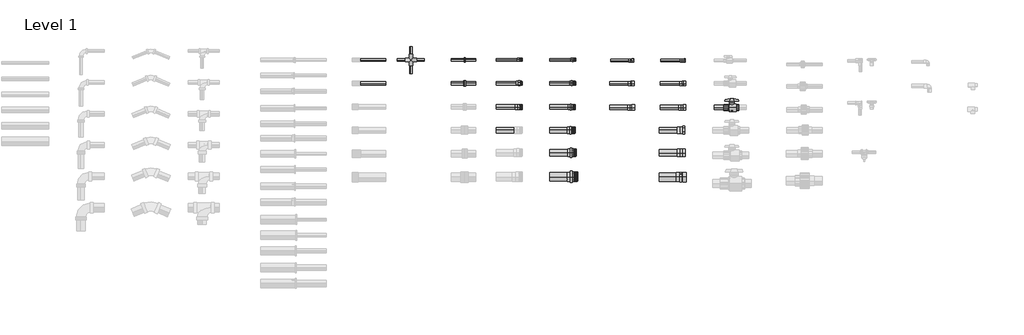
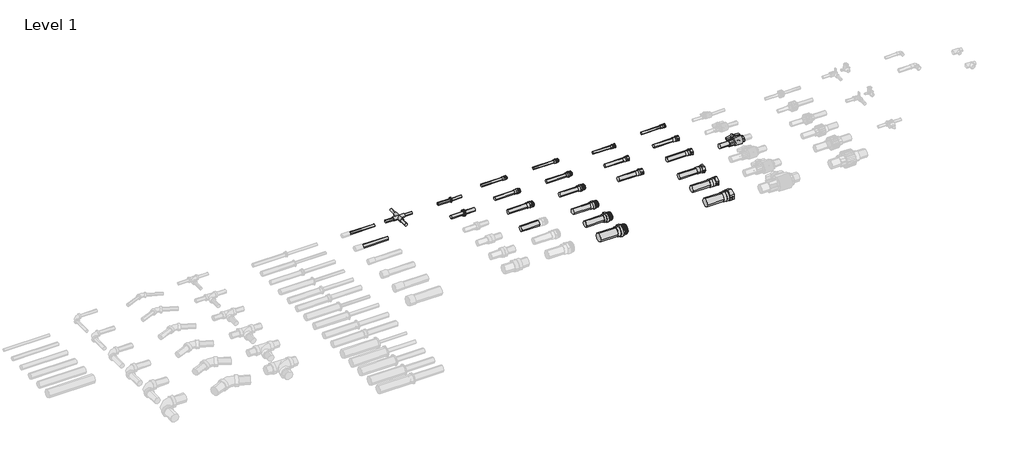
# One storey, part 4 of 5: 30 pipe segments, 19 valves, 3 pipe fittings.
"""IFC4 building model written with IfcOpenShell, lengths in millimetres."""

from ifc_helpers import new_model, si_unit, point, frame, frame_2d, origin, place, context, project, spatial, circle_curve, trimmed, segment, composite_curve, outline, extrude, transform, mapped, element, save
from components import standard_33ca7a89, standard_c6e6c247, standard_b45bd4e5, valve_ad1eddb8, valve_ba74af61, valve_d5ede667, valve_bd7e4427, valve_c4f6bb43, valve_c794fbe9, valve_c067d7a9, valve_b4eb689a, valve_5111bdb8, valve_420338b3, valve_9c0856a4, valve_839ebb6c, valve_88e978f3, valve_e3f3b538, valve_6d2ca414, valve_06e1a133, valve_689d34dc, valve_f961c14e, valve_15d234eb

model = new_model("IFC4")

# Units and contexts
model_context = context("Model", 3, world=origin())
ifc_project = project(units=[si_unit("LENGTHUNIT", "METRE", prefix="MILLI")], contexts=[model_context])

# Site, building, storey
site = spatial("IfcSite", under=ifc_project)
building = spatial("IfcBuilding", under=site)
storey = spatial("IfcBuildingStorey", under=building, Name="Level 1", Elevation=0.0)

# Pipe fittings
placement = place(None, origin())
standard_shape = standard_33ca7a89(model_context)
element("IfcPipeFitting", 1, ObjectType="Cross_Lubrizol_CPVC_FlowGuard_MX : Standard", at=placement, inside=storey, context=model_context, shape_type="MappedRepresentation", body=[
    mapped(standard_shape, transform((-11736.6977381, 7152.4110287, 0.0), x_axis=(0.0, -1.0, 0.0), y_axis=(-1.0, 0.0, 0.0), z_axis=(0.0, 0.0, -1.0))),
])
standard_2_shape = standard_c6e6c247(model_context)
element("IfcPipeFitting", 2, ObjectType="Cople_Lubrizol_CPVC_FlowGuard_MX : Standard", at=placement, inside=storey, context=model_context, shape_type="MappedRepresentation", body=[
    mapped(standard_2_shape, transform((-11393.7080901, 7153.8269662, 0.0), x_axis=(1.0, 0.0, 0.0), y_axis=(0.0, 1.0, 0.0), z_axis=(0.0, 0.0, 1.0))),
])
standard_3_shape = standard_b45bd4e5(model_context)
element("IfcPipeFitting", 3, ObjectType="Cople_Lubrizol_CPVC_FlowGuard_MX : Standard", at=placement, inside=storey, context=model_context, shape_type="MappedRepresentation", body=[
    mapped(standard_3_shape, transform((-11393.7080901, 7003.8269662, 0.0), x_axis=(1.0, 0.0, 0.0), y_axis=(0.0, 1.0, 0.0), z_axis=(0.0, 0.0, 1.0))),
])

# Pipe segments
element("IfcPipeSegment", 4, ObjectType="Lubrizol_Flow Guard SDR 13.5", at=placement, inside=storey, context=model_context, shape_type="SweptSolid", body=[
    extrude(outline(composite_curve([segment(trimmed(circle_curve(frame_2d((7152.702325, 0.0)), 7.95), [point((7144.752325, 0.0))], [point((7152.702325, 7.95))], False, "CARTESIAN"), True, "CONTINUOUS"), segment(trimmed(circle_curve(frame_2d((7152.702325, 0.0)), 7.95), [point((7152.702325, 7.95))], [point((7160.652325, 0.0))], False, "CARTESIAN"), True, "CONTINUOUS"), segment(trimmed(circle_curve(frame_2d((7152.702325, 0.0)), 7.95), [point((7160.652325, 0.0))], [point((7152.702325, -7.95))], False, "CARTESIAN"), True, "CONTINUOUS"), segment(trimmed(circle_curve(frame_2d((7152.702325, 0.0)), 7.95), [point((7152.702325, -7.95))], [point((7144.752325, 0.0))], False, "CARTESIAN"), True, "CONTINUOUS")], self_intersect=False)), frame((-12060.9977666, 0.0, 0.0), z_axis=(1.0, 0.0, 0.0), x_axis=(0.0, 1.0, 0.0)), (0.0, 0.0, 1.0), 165.0),
])
element("IfcPipeSegment", 5, ObjectType="Lubrizol_Flow Guard SDR 13.5", at=placement, inside=storey, context=model_context, shape_type="SweptSolid", body=[
    extrude(outline(composite_curve([segment(trimmed(circle_curve(frame_2d((7002.702325, 0.0)), 11.1), [point((6991.602325, 0.0))], [point((7002.702325, 11.1))], False, "CARTESIAN"), True, "CONTINUOUS"), segment(trimmed(circle_curve(frame_2d((7002.702325, 0.0)), 11.1), [point((7002.702325, 11.1))], [point((7013.802325, 0.0))], False, "CARTESIAN"), True, "CONTINUOUS"), segment(trimmed(circle_curve(frame_2d((7002.702325, 0.0)), 11.1), [point((7013.802325, 0.0))], [point((7002.702325, -11.1))], False, "CARTESIAN"), True, "CONTINUOUS"), segment(trimmed(circle_curve(frame_2d((7002.702325, 0.0)), 11.1), [point((7002.702325, -11.1))], [point((6991.602325, 0.0))], False, "CARTESIAN"), True, "CONTINUOUS")], self_intersect=False)), frame((-12060.9977666, 0.0, 0.0), z_axis=(1.0, 0.0, 0.0), x_axis=(0.0, 1.0, 0.0)), (0.0, 0.0, 1.0), 165.0),
])
element("IfcPipeSegment", 6, ObjectType="Lubrizol_Flow Guard SDR 13.5", at=placement, inside=storey, context=model_context, shape_type="SweptSolid", body=[
    extrude(outline(composite_curve([segment(trimmed(circle_curve(frame_2d((0.0, 7.95)), 7.95), [point((0.0, 15.9))], [point((7.95, 7.95))], False, "CARTESIAN"), True, "CONTINUOUS"), segment(trimmed(circle_curve(frame_2d((0.0, 7.95)), 7.95), [point((7.95, 7.95))], [point((0.0, 0.0))], False, "CARTESIAN"), True, "CONTINUOUS"), segment(trimmed(circle_curve(frame_2d((0.0, 7.95)), 7.95), [point((0.0, 0.0))], [point((-7.95, 7.95))], False, "CARTESIAN"), True, "CONTINUOUS"), segment(trimmed(circle_curve(frame_2d((0.0, 7.95)), 7.95), [point((-7.95, 7.95))], [point((0.0, 15.9))], False, "CARTESIAN"), True, "CONTINUOUS")], self_intersect=False)), frame((-11744.6477381, 7188.8269662, 0.0), z_axis=(-2.0431455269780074e-12, 1.0, 0.0), x_axis=(0.0, 0.0, 1.0)), (0.0, 0.0, 1.0), 50.0),
])
element("IfcPipeSegment", 7, ObjectType="Lubrizol_Flow Guard SDR 13.5", at=placement, inside=storey, context=model_context, shape_type="SweptSolid", body=[
    extrude(outline(composite_curve([segment(trimmed(circle_curve(frame_2d((7152.4110287, 0.0)), 7.95), [point((7144.4610287, 0.0))], [point((7152.4110287, 7.95))], False, "CARTESIAN"), True, "CONTINUOUS"), segment(trimmed(circle_curve(frame_2d((7152.4110287, 0.0)), 7.95), [point((7152.4110287, 7.95))], [point((7160.3610287, 0.0))], False, "CARTESIAN"), True, "CONTINUOUS"), segment(trimmed(circle_curve(frame_2d((7152.4110287, 0.0)), 7.95), [point((7160.3610287, 0.0))], [point((7152.4110287, -7.95))], False, "CARTESIAN"), True, "CONTINUOUS"), segment(trimmed(circle_curve(frame_2d((7152.4110287, 0.0)), 7.95), [point((7152.4110287, -7.95))], [point((7144.4610287, 0.0))], False, "CARTESIAN"), True, "CONTINUOUS")], self_intersect=False)), frame((-11700.2818006, 0.0, 0.0), z_axis=(1.0, 0.0, 0.0), x_axis=(0.0, 1.0, 0.0)), (0.0, 0.0, 1.0), 50.0),
])
element("IfcPipeSegment", 8, ObjectType="Lubrizol_Flow Guard SDR 13.5", at=placement, inside=storey, context=model_context, shape_type="SweptSolid", body=[
    extrude(outline(composite_curve([segment(trimmed(circle_curve(frame_2d((0.0, 7.95)), 7.95), [point((0.0, 15.9))], [point((7.95, 7.95))], False, "CARTESIAN"), True, "CONTINUOUS"), segment(trimmed(circle_curve(frame_2d((0.0, 7.95)), 7.95), [point((7.95, 7.95))], [point((0.0, 0.0))], False, "CARTESIAN"), True, "CONTINUOUS"), segment(trimmed(circle_curve(frame_2d((0.0, 7.95)), 7.95), [point((0.0, 0.0))], [point((-7.95, 7.95))], False, "CARTESIAN"), True, "CONTINUOUS"), segment(trimmed(circle_curve(frame_2d((0.0, 7.95)), 7.95), [point((-7.95, 7.95))], [point((0.0, 15.9))], False, "CARTESIAN"), True, "CONTINUOUS")], self_intersect=False)), frame((-11744.6477381, 7065.9950912, 0.0), z_axis=(-1.0215727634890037e-12, 1.0, 0.0), x_axis=(0.0, 0.0, 1.0)), (0.0, 0.0, 1.0), 50.0),
])
element("IfcPipeSegment", 9, ObjectType="Lubrizol_Flow Guard SDR 13.5", at=placement, inside=storey, context=model_context, shape_type="SweptSolid", body=[
    extrude(outline(composite_curve([segment(trimmed(circle_curve(frame_2d((7152.4110287, 0.0)), 7.95), [point((7144.4610287, 0.0))], [point((7152.4110287, 7.95))], False, "CARTESIAN"), True, "CONTINUOUS"), segment(trimmed(circle_curve(frame_2d((7152.4110287, 0.0)), 7.95), [point((7152.4110287, 7.95))], [point((7160.3610287, 0.0))], False, "CARTESIAN"), True, "CONTINUOUS"), segment(trimmed(circle_curve(frame_2d((7152.4110287, 0.0)), 7.95), [point((7160.3610287, 0.0))], [point((7152.4110287, -7.95))], False, "CARTESIAN"), True, "CONTINUOUS"), segment(trimmed(circle_curve(frame_2d((7152.4110287, 0.0)), 7.95), [point((7152.4110287, -7.95))], [point((7144.4610287, 0.0))], False, "CARTESIAN"), True, "CONTINUOUS")], self_intersect=False)), frame((-11823.1136756, 0.0, 0.0), z_axis=(1.0, 0.0, 0.0), x_axis=(0.0, 1.0, 0.0)), (0.0, 0.0, 1.0), 50.0),
])
element("IfcPipeSegment", 10, ObjectType="Lubrizol_Flow Guard SDR 13.5", at=placement, inside=storey, context=model_context, shape_type="SweptSolid", body=[
    extrude(outline(composite_curve([segment(trimmed(circle_curve(frame_2d((7153.8269662, 0.0)), 7.95), [point((7145.8769662, 0.0))], [point((7153.8269662, 7.95))], False, "CARTESIAN"), True, "CONTINUOUS"), segment(trimmed(circle_curve(frame_2d((7153.8269662, 0.0)), 7.95), [point((7153.8269662, 7.95))], [point((7161.7769662, 0.0))], False, "CARTESIAN"), True, "CONTINUOUS"), segment(trimmed(circle_curve(frame_2d((7153.8269662, 0.0)), 7.95), [point((7161.7769662, 0.0))], [point((7153.8269662, -7.95))], False, "CARTESIAN"), True, "CONTINUOUS"), segment(trimmed(circle_curve(frame_2d((7153.8269662, 0.0)), 7.95), [point((7153.8269662, -7.95))], [point((7145.8769662, 0.0))], False, "CARTESIAN"), True, "CONTINUOUS")], self_intersect=False)), frame((-11390.6722307, 0.0, 0.0), z_axis=(1.0, 0.0, 0.0), x_axis=(0.0, 1.0, 0.0)), (0.0, 0.0, 1.0), 67.6016406),
])
element("IfcPipeSegment", 11, ObjectType="Lubrizol_Flow Guard SDR 13.5", at=placement, inside=storey, context=model_context, shape_type="SweptSolid", body=[
    extrude(outline(composite_curve([segment(trimmed(circle_curve(frame_2d((7153.8269662, 0.0)), 7.95), [point((7161.7769662, 0.0))], [point((7153.8269662, -7.95))], False, "CARTESIAN"), True, "CONTINUOUS"), segment(trimmed(circle_curve(frame_2d((7153.8269662, 0.0)), 7.95), [point((7153.8269662, -7.95))], [point((7145.8769662, 0.0))], False, "CARTESIAN"), True, "CONTINUOUS"), segment(trimmed(circle_curve(frame_2d((7153.8269662, 0.0)), 7.95), [point((7145.8769662, 0.0))], [point((7153.8269662, 7.95))], False, "CARTESIAN"), True, "CONTINUOUS"), segment(trimmed(circle_curve(frame_2d((7153.8269662, 0.0)), 7.95), [point((7153.8269662, 7.95))], [point((7161.7769662, 0.0))], False, "CARTESIAN"), True, "CONTINUOUS")], self_intersect=False)), frame((-11478.0705901, 0.0, 0.0), z_axis=(1.0, 0.0, 0.0), x_axis=(0.0, 1.0, 0.0)), (0.0, 0.0, 1.0), 81.3266406),
])
element("IfcPipeSegment", 12, ObjectType="Lubrizol_Flow Guard SDR 13.5", at=placement, inside=storey, context=model_context, shape_type="SweptSolid", body=[
    extrude(outline(composite_curve([segment(trimmed(circle_curve(frame_2d((7003.8269662, 0.0)), 11.1), [point((6992.7269662, 0.0))], [point((7003.8269662, 11.1))], False, "CARTESIAN"), True, "CONTINUOUS"), segment(trimmed(circle_curve(frame_2d((7003.8269662, 0.0)), 11.1), [point((7003.8269662, 11.1))], [point((7014.9269662, 0.0))], False, "CARTESIAN"), True, "CONTINUOUS"), segment(trimmed(circle_curve(frame_2d((7003.8269662, 0.0)), 11.1), [point((7014.9269662, 0.0))], [point((7003.8269662, -11.1))], False, "CARTESIAN"), True, "CONTINUOUS"), segment(trimmed(circle_curve(frame_2d((7003.8269662, 0.0)), 11.1), [point((7003.8269662, -11.1))], [point((6992.7269662, 0.0))], False, "CARTESIAN"), True, "CONTINUOUS")], self_intersect=False)), frame((-11387.4622307, 0.0, 0.0), z_axis=(1.0, 0.0, 0.0), x_axis=(0.0, 1.0, 0.0)), (0.0, 0.0, 1.0), 64.3916406),
])
element("IfcPipeSegment", 13, ObjectType="Lubrizol_Flow Guard SDR 13.5", at=placement, inside=storey, context=model_context, shape_type="SweptSolid", body=[
    extrude(outline(composite_curve([segment(trimmed(circle_curve(frame_2d((7003.8269662, 0.0)), 11.1), [point((7014.9269662, 0.0))], [point((7003.8269662, -11.1))], False, "CARTESIAN"), True, "CONTINUOUS"), segment(trimmed(circle_curve(frame_2d((7003.8269662, 0.0)), 11.1), [point((7003.8269662, -11.1))], [point((6992.7269662, 0.0))], False, "CARTESIAN"), True, "CONTINUOUS"), segment(trimmed(circle_curve(frame_2d((7003.8269662, 0.0)), 11.1), [point((6992.7269662, 0.0))], [point((7003.8269662, 11.1))], False, "CARTESIAN"), True, "CONTINUOUS"), segment(trimmed(circle_curve(frame_2d((7003.8269662, 0.0)), 11.1), [point((7003.8269662, 11.1))], [point((7014.9269662, 0.0))], False, "CARTESIAN"), True, "CONTINUOUS")], self_intersect=False)), frame((-11478.0705901, 0.0, 0.0), z_axis=(1.0, 0.0, 0.0), x_axis=(0.0, 1.0, 0.0)), (0.0, 0.0, 1.0), 78.1166406),
])
element("IfcPipeSegment", 14, ObjectType="Lubrizol_Flow Guard SDR 13.5", at=placement, inside=storey, context=model_context, shape_type="SweptSolid", body=[
    extrude(outline(composite_curve([segment(trimmed(circle_curve(frame_2d((6703.8894662, 0.0)), 17.45), [point((6721.3394662, 0.0))], [point((6703.8894662, -17.45))], False, "CARTESIAN"), True, "CONTINUOUS"), segment(trimmed(circle_curve(frame_2d((6703.8894662, 0.0)), 17.45), [point((6703.8894662, -17.45))], [point((6686.4394662, 0.0))], False, "CARTESIAN"), True, "CONTINUOUS"), segment(trimmed(circle_curve(frame_2d((6703.8894662, 0.0)), 17.45), [point((6686.4394662, 0.0))], [point((6703.8894662, 17.45))], False, "CARTESIAN"), True, "CONTINUOUS"), segment(trimmed(circle_curve(frame_2d((6703.8894662, 0.0)), 17.45), [point((6703.8894662, 17.45))], [point((6721.3394662, 0.0))], False, "CARTESIAN"), True, "CONTINUOUS")], self_intersect=False)), frame((-11190.4354895, 0.0, 0.0), z_axis=(1.0, 0.0, 0.0), x_axis=(0.0, 1.0, 0.0)), (0.0, 0.0, 1.0), 114.8547988),
])
element("IfcPipeSegment", 15, ObjectType="Lubrizol_Flow Guard SDR 13.5", at=placement, inside=storey, context=model_context, shape_type="SweptSolid", body=[
    extrude(outline(composite_curve([segment(trimmed(circle_curve(frame_2d((6851.9141957, 28.2)), 14.3), [point((6866.2141957, 28.2))], [point((6851.9141957, 13.9))], False, "CARTESIAN"), True, "CONTINUOUS"), segment(trimmed(circle_curve(frame_2d((6851.9141957, 28.2)), 14.3), [point((6851.9141957, 13.9))], [point((6837.6141957, 28.2))], False, "CARTESIAN"), True, "CONTINUOUS"), segment(trimmed(circle_curve(frame_2d((6851.9141957, 28.2)), 14.3), [point((6837.6141957, 28.2))], [point((6851.9141957, 42.5))], False, "CARTESIAN"), True, "CONTINUOUS"), segment(trimmed(circle_curve(frame_2d((6851.9141957, 28.2)), 14.3), [point((6851.9141957, 42.5))], [point((6866.2141957, 28.2))], False, "CARTESIAN"), True, "CONTINUOUS")], self_intersect=False)), frame((-11190.4354895, 0.0, 0.0), z_axis=(1.0, 0.0, 0.0), x_axis=(0.0, 1.0, 0.0)), (0.0, 0.0, 1.0), 119.8547988),
])
element("IfcPipeSegment", 16, ObjectType="Lubrizol_Flow Guard SDR 13.5", at=placement, inside=storey, context=model_context, shape_type="SweptSolid", body=[
    extrude(outline(composite_curve([segment(trimmed(circle_curve(frame_2d((7003.8269662, 28.2)), 11.1), [point((7014.9269662, 28.2))], [point((7003.8269662, 17.1))], False, "CARTESIAN"), True, "CONTINUOUS"), segment(trimmed(circle_curve(frame_2d((7003.8269662, 28.2)), 11.1), [point((7003.8269662, 17.1))], [point((6992.7269662, 28.2))], False, "CARTESIAN"), True, "CONTINUOUS"), segment(trimmed(circle_curve(frame_2d((7003.8269662, 28.2)), 11.1), [point((6992.7269662, 28.2))], [point((7003.8269662, 39.3))], False, "CARTESIAN"), True, "CONTINUOUS"), segment(trimmed(circle_curve(frame_2d((7003.8269662, 28.2)), 11.1), [point((7003.8269662, 39.3))], [point((7014.9269662, 28.2))], False, "CARTESIAN"), True, "CONTINUOUS")], self_intersect=False)), frame((-11190.4354895, 0.0, 0.0), z_axis=(1.0, 0.0, 0.0), x_axis=(0.0, 1.0, 0.0)), (0.0, 0.0, 1.0), 126.7297988),
])
element("IfcPipeSegment", 17, ObjectType="Lubrizol_Flow Guard SDR 13.5", at=placement, inside=storey, context=model_context, shape_type="SweptSolid", body=[
    extrude(outline(composite_curve([segment(trimmed(circle_curve(frame_2d((7154.0267078, 28.2239162)), 7.95), [point((7161.9767078, 28.2239162))], [point((7154.0267078, 20.2739162))], False, "CARTESIAN"), True, "CONTINUOUS"), segment(trimmed(circle_curve(frame_2d((7154.0267078, 28.2239162)), 7.95), [point((7154.0267078, 20.2739162))], [point((7146.0767078, 28.2239162))], False, "CARTESIAN"), True, "CONTINUOUS"), segment(trimmed(circle_curve(frame_2d((7154.0267078, 28.2239162)), 7.95), [point((7146.0767078, 28.2239162))], [point((7154.0267078, 36.1739162))], False, "CARTESIAN"), True, "CONTINUOUS"), segment(trimmed(circle_curve(frame_2d((7154.0267078, 28.2239162)), 7.95), [point((7154.0267078, 36.1739162))], [point((7161.9767078, 28.2239162))], False, "CARTESIAN"), True, "CONTINUOUS")], self_intersect=False)), frame((-11190.4354895, 0.0, 0.0), z_axis=(1.0, 0.0, 0.0), x_axis=(0.0, 1.0, 0.0)), (0.0, 0.0, 1.0), 133.9297988),
])
element("IfcPipeSegment", 18, ObjectType="Lubrizol_Flow Guard SDR 13.5", at=placement, inside=storey, context=model_context, shape_type="SweptSolid", body=[
    extrude(outline(composite_curve([segment(trimmed(circle_curve(frame_2d((6849.3516957, 3.2)), 14.3), [point((6863.6516957, 3.2))], [point((6849.3516957, -11.1))], False, "CARTESIAN"), True, "CONTINUOUS"), segment(trimmed(circle_curve(frame_2d((6849.3516957, 3.2)), 14.3), [point((6849.3516957, -11.1))], [point((6835.0516957, 3.2))], False, "CARTESIAN"), True, "CONTINUOUS"), segment(trimmed(circle_curve(frame_2d((6849.3516957, 3.2)), 14.3), [point((6835.0516957, 3.2))], [point((6849.3516957, 17.5))], False, "CARTESIAN"), True, "CONTINUOUS"), segment(trimmed(circle_curve(frame_2d((6849.3516957, 3.2)), 14.3), [point((6849.3516957, 17.5))], [point((6863.6516957, 3.2))], False, "CARTESIAN"), True, "CONTINUOUS")], self_intersect=False)), frame((-10465.9989597, 0.0, 0.0), z_axis=(1.0, 0.0, 0.0), x_axis=(0.0, 1.0, 0.0)), (0.0, 0.0, 1.0), 113.1259702),
])
element("IfcPipeSegment", 19, ObjectType="Lubrizol_Flow Guard SDR 13.5", at=placement, inside=storey, context=model_context, shape_type="SweptSolid", body=[
    extrude(outline(composite_curve([segment(trimmed(circle_curve(frame_2d((7002.8269662, 3.2)), 11.1), [point((7013.9269662, 3.2))], [point((7002.8269662, -7.9))], False, "CARTESIAN"), True, "CONTINUOUS"), segment(trimmed(circle_curve(frame_2d((7002.8269662, 3.2)), 11.1), [point((7002.8269662, -7.9))], [point((6991.7269662, 3.2))], False, "CARTESIAN"), True, "CONTINUOUS"), segment(trimmed(circle_curve(frame_2d((7002.8269662, 3.2)), 11.1), [point((6991.7269662, 3.2))], [point((7002.8269662, 14.3))], False, "CARTESIAN"), True, "CONTINUOUS"), segment(trimmed(circle_curve(frame_2d((7002.8269662, 3.2)), 11.1), [point((7002.8269662, 14.3))], [point((7013.9269662, 3.2))], False, "CARTESIAN"), True, "CONTINUOUS")], self_intersect=False)), frame((-10465.9989597, 0.0, 0.0), z_axis=(1.0, 0.0, 0.0), x_axis=(0.0, 1.0, 0.0)), (0.0, 0.0, 1.0), 116.5634702),
])
element("IfcPipeSegment", 20, ObjectType="Lubrizol_Flow Guard SDR 13.5", at=placement, inside=storey, context=model_context, shape_type="SweptSolid", body=[
    extrude(outline(composite_curve([segment(trimmed(circle_curve(frame_2d((0.0, -7.95)), 7.95), [point((-7.95, -7.95))], [point((0.0, 0.0))], False, "CARTESIAN"), True, "CONTINUOUS"), segment(trimmed(circle_curve(frame_2d((0.0, -7.95)), 7.95), [point((0.0, 0.0))], [point((7.95, -7.95))], False, "CARTESIAN"), True, "CONTINUOUS"), segment(trimmed(circle_curve(frame_2d((0.0, -7.95)), 7.95), [point((7.95, -7.95))], [point((0.0, -15.8999999))], False, "CARTESIAN"), True, "CONTINUOUS"), segment(trimmed(circle_curve(frame_2d((0.0, -7.95)), 7.95), [point((0.0, -15.8999999))], [point((-7.95, -7.95))], False, "CARTESIAN"), True, "CONTINUOUS")], self_intersect=False)), frame((-10460.8338338, 7148.6267078, -4.7499998), z_axis=(0.9999999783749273, 0.0, 0.00020796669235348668), x_axis=(0.0, -1.0, 0.0)), (0.0, 0.0, 1.0), 115.0000001),
])
element("IfcPipeSegment", 21, ObjectType="Lubrizol_Flow Guard SDR 13.5", at=placement, inside=storey, context=model_context, shape_type="SweptSolid", body=[
    extrude(outline(composite_curve([segment(trimmed(circle_curve(frame_2d((6848.4516957, 0.0)), 14.3), [point((6862.7516957, 0.0))], [point((6848.4516957, -14.3))], False, "CARTESIAN"), True, "CONTINUOUS"), segment(trimmed(circle_curve(frame_2d((6848.4516957, 0.0)), 14.3), [point((6848.4516957, -14.3))], [point((6834.1516957, 0.0))], False, "CARTESIAN"), True, "CONTINUOUS"), segment(trimmed(circle_curve(frame_2d((6848.4516957, 0.0)), 14.3), [point((6834.1516957, 0.0))], [point((6848.4516957, 14.3))], False, "CARTESIAN"), True, "CONTINUOUS"), segment(trimmed(circle_curve(frame_2d((6848.4516957, 0.0)), 14.3), [point((6848.4516957, 14.3))], [point((6862.7516957, 0.0))], False, "CARTESIAN"), True, "CONTINUOUS")], self_intersect=False)), frame((-9801.0225291, 0.0, 0.0), z_axis=(1.0, 0.0, 0.0), x_axis=(0.0, 1.0, 0.0)), (0.0, 0.0, 1.0), 60.0),
])
element("IfcPipeSegment", 22, ObjectType="Lubrizol_Flow Guard SDR 13.5", at=placement, inside=storey, context=model_context, shape_type="SweptSolid", body=[
    extrude(outline(composite_curve([segment(trimmed(circle_curve(frame_2d((6406.4620668, 0.0)), 27.0), [point((6433.4620668, 0.0))], [point((6406.4620668, -27.0))], False, "CARTESIAN"), True, "CONTINUOUS"), segment(trimmed(circle_curve(frame_2d((6406.4620668, 0.0)), 27.0), [point((6406.4620668, -27.0))], [point((6379.4620668, 0.0))], False, "CARTESIAN"), True, "CONTINUOUS"), segment(trimmed(circle_curve(frame_2d((6406.4620668, 0.0)), 27.0), [point((6379.4620668, 0.0))], [point((6406.4620668, 27.0))], False, "CARTESIAN"), True, "CONTINUOUS"), segment(trimmed(circle_curve(frame_2d((6406.4620668, 0.0)), 27.0), [point((6406.4620668, 27.0))], [point((6433.4620668, 0.0))], False, "CARTESIAN"), True, "CONTINUOUS")], self_intersect=False)), frame((-10850.4354895, 0.0, 0.0), z_axis=(1.0, 0.0, 0.0), x_axis=(0.0, 1.0, 0.0)), (0.0, 0.0, 1.0), 112.6351006),
])
element("IfcPipeSegment", 23, ObjectType="Lubrizol_Flow Guard SDR 13.5", at=placement, inside=storey, context=model_context, shape_type="SweptSolid", body=[
    extrude(outline(composite_curve([segment(trimmed(circle_curve(frame_2d((6560.801111, 0.0)), 20.65), [point((6581.451111, 0.0))], [point((6560.801111, -20.65))], False, "CARTESIAN"), True, "CONTINUOUS"), segment(trimmed(circle_curve(frame_2d((6560.801111, 0.0)), 20.65), [point((6560.801111, -20.65))], [point((6540.151111, 0.0))], False, "CARTESIAN"), True, "CONTINUOUS"), segment(trimmed(circle_curve(frame_2d((6560.801111, 0.0)), 20.65), [point((6540.151111, 0.0))], [point((6560.801111, 20.65))], False, "CARTESIAN"), True, "CONTINUOUS"), segment(trimmed(circle_curve(frame_2d((6560.801111, 0.0)), 20.65), [point((6560.801111, 20.65))], [point((6581.451111, 0.0))], False, "CARTESIAN"), True, "CONTINUOUS")], self_intersect=False)), frame((-10850.4354895, 0.0, 0.0), z_axis=(1.0, 0.0, 0.0), x_axis=(0.0, 1.0, 0.0)), (0.0, 0.0, 1.0), 115.4476006),
])
element("IfcPipeSegment", 24, ObjectType="Lubrizol_Flow Guard SDR 13.5", at=placement, inside=storey, context=model_context, shape_type="SweptSolid", body=[
    extrude(outline(composite_curve([segment(trimmed(circle_curve(frame_2d((6703.9519662, 0.0)), 17.45), [point((6721.4019662, 0.0))], [point((6703.9519662, -17.45))], False, "CARTESIAN"), True, "CONTINUOUS"), segment(trimmed(circle_curve(frame_2d((6703.9519662, 0.0)), 17.45), [point((6703.9519662, -17.45))], [point((6686.5019662, 0.0))], False, "CARTESIAN"), True, "CONTINUOUS"), segment(trimmed(circle_curve(frame_2d((6703.9519662, 0.0)), 17.45), [point((6686.5019662, 0.0))], [point((6703.9519662, 17.45))], False, "CARTESIAN"), True, "CONTINUOUS"), segment(trimmed(circle_curve(frame_2d((6703.9519662, 0.0)), 17.45), [point((6703.9519662, 17.45))], [point((6721.4019662, 0.0))], False, "CARTESIAN"), True, "CONTINUOUS")], self_intersect=False)), frame((-10850.4354895, 0.0, 0.0), z_axis=(1.0, 0.0, 0.0), x_axis=(0.0, 1.0, 0.0)), (0.0, 0.0, 1.0), 112.4172988),
])
element("IfcPipeSegment", 25, ObjectType="Lubrizol_Flow Guard SDR 13.5", at=placement, inside=storey, context=model_context, shape_type="SweptSolid", body=[
    extrude(outline(composite_curve([segment(trimmed(circle_curve(frame_2d((6851.9141957, 28.2)), 14.3), [point((6866.2141957, 28.2))], [point((6851.9141957, 13.9))], False, "CARTESIAN"), True, "CONTINUOUS"), segment(trimmed(circle_curve(frame_2d((6851.9141957, 28.2)), 14.3), [point((6851.9141957, 13.9))], [point((6837.6141957, 28.2))], False, "CARTESIAN"), True, "CONTINUOUS"), segment(trimmed(circle_curve(frame_2d((6851.9141957, 28.2)), 14.3), [point((6837.6141957, 28.2))], [point((6851.9141957, 42.5))], False, "CARTESIAN"), True, "CONTINUOUS"), segment(trimmed(circle_curve(frame_2d((6851.9141957, 28.2)), 14.3), [point((6851.9141957, 42.5))], [point((6866.2141957, 28.2))], False, "CARTESIAN"), True, "CONTINUOUS")], self_intersect=False)), frame((-10850.4354895, 0.0, 0.0), z_axis=(1.0, 0.0, 0.0), x_axis=(0.0, 1.0, 0.0)), (0.0, 0.0, 1.0), 117.4172988),
])
element("IfcPipeSegment", 26, ObjectType="Lubrizol_Flow Guard SDR 13.5", at=placement, inside=storey, context=model_context, shape_type="SweptSolid", body=[
    extrude(outline(composite_curve([segment(trimmed(circle_curve(frame_2d((7003.8269662, 28.2)), 11.1), [point((7014.9269662, 28.2))], [point((7003.8269662, 17.1))], False, "CARTESIAN"), True, "CONTINUOUS"), segment(trimmed(circle_curve(frame_2d((7003.8269662, 28.2)), 11.1), [point((7003.8269662, 17.1))], [point((6992.7269662, 28.2))], False, "CARTESIAN"), True, "CONTINUOUS"), segment(trimmed(circle_curve(frame_2d((7003.8269662, 28.2)), 11.1), [point((6992.7269662, 28.2))], [point((7003.8269662, 39.3))], False, "CARTESIAN"), True, "CONTINUOUS"), segment(trimmed(circle_curve(frame_2d((7003.8269662, 28.2)), 11.1), [point((7003.8269662, 39.3))], [point((7014.9269662, 28.2))], False, "CARTESIAN"), True, "CONTINUOUS")], self_intersect=False)), frame((-10850.4354895, 0.0, 0.0), z_axis=(1.0, 0.0, 0.0), x_axis=(0.0, 1.0, 0.0)), (0.0, 0.0, 1.0), 126.7297988),
])
element("IfcPipeSegment", 27, ObjectType="Lubrizol_Flow Guard SDR 13.5", at=placement, inside=storey, context=model_context, shape_type="SweptSolid", body=[
    extrude(outline(composite_curve([segment(trimmed(circle_curve(frame_2d((7154.0267078, 28.2239162)), 7.95), [point((7161.9767078, 28.2239162))], [point((7154.0267078, 20.2739162))], False, "CARTESIAN"), True, "CONTINUOUS"), segment(trimmed(circle_curve(frame_2d((7154.0267078, 28.2239162)), 7.95), [point((7154.0267078, 20.2739162))], [point((7146.0767078, 28.2239162))], False, "CARTESIAN"), True, "CONTINUOUS"), segment(trimmed(circle_curve(frame_2d((7154.0267078, 28.2239162)), 7.95), [point((7146.0767078, 28.2239162))], [point((7154.0267078, 36.1739162))], False, "CARTESIAN"), True, "CONTINUOUS"), segment(trimmed(circle_curve(frame_2d((7154.0267078, 28.2239162)), 7.95), [point((7154.0267078, 36.1739162))], [point((7161.9767078, 28.2239162))], False, "CARTESIAN"), True, "CONTINUOUS")], self_intersect=False)), frame((-10850.4354895, 0.0, 0.0), z_axis=(1.0, 0.0, 0.0), x_axis=(0.0, 1.0, 0.0)), (0.0, 0.0, 1.0), 133.9297988),
])
element("IfcPipeSegment", 28, ObjectType="Lubrizol_Flow Guard SDR 13.5", at=placement, inside=storey, context=model_context, shape_type="SweptSolid", body=[
    extrude(outline(composite_curve([segment(trimmed(circle_curve(frame_2d((6849.3516957, 28.2)), 14.3), [point((6863.6516957, 28.2))], [point((6849.3516957, 13.9))], False, "CARTESIAN"), True, "CONTINUOUS"), segment(trimmed(circle_curve(frame_2d((6849.3516957, 28.2)), 14.3), [point((6849.3516957, 13.9))], [point((6835.0516957, 28.2))], False, "CARTESIAN"), True, "CONTINUOUS"), segment(trimmed(circle_curve(frame_2d((6849.3516957, 28.2)), 14.3), [point((6835.0516957, 28.2))], [point((6849.3516957, 42.5))], False, "CARTESIAN"), True, "CONTINUOUS"), segment(trimmed(circle_curve(frame_2d((6849.3516957, 28.2)), 14.3), [point((6849.3516957, 42.5))], [point((6863.6516957, 28.2))], False, "CARTESIAN"), True, "CONTINUOUS")], self_intersect=False)), frame((-10145.9989597, 0.0, 0.0), z_axis=(1.0, 0.0, 0.0), x_axis=(0.0, 1.0, 0.0)), (0.0, 0.0, 1.0), 118.1884702),
])
element("IfcPipeSegment", 29, ObjectType="Lubrizol_Flow Guard SDR 13.5", at=placement, inside=storey, context=model_context, shape_type="SweptSolid", body=[
    extrude(outline(composite_curve([segment(trimmed(circle_curve(frame_2d((7002.8269662, 28.2)), 11.1), [point((7013.9269662, 28.2))], [point((7002.8269662, 17.1))], False, "CARTESIAN"), True, "CONTINUOUS"), segment(trimmed(circle_curve(frame_2d((7002.8269662, 28.2)), 11.1), [point((7002.8269662, 17.1))], [point((6991.7269662, 28.2))], False, "CARTESIAN"), True, "CONTINUOUS"), segment(trimmed(circle_curve(frame_2d((7002.8269662, 28.2)), 11.1), [point((6991.7269662, 28.2))], [point((7002.8269662, 39.3))], False, "CARTESIAN"), True, "CONTINUOUS"), segment(trimmed(circle_curve(frame_2d((7002.8269662, 28.2)), 11.1), [point((7002.8269662, 39.3))], [point((7013.9269662, 28.2))], False, "CARTESIAN"), True, "CONTINUOUS")], self_intersect=False)), frame((-10145.9989597, 0.0, 0.0), z_axis=(1.0, 0.0, 0.0), x_axis=(0.0, 1.0, 0.0)), (0.0, 0.0, 1.0), 125.0634702),
])
element("IfcPipeSegment", 30, ObjectType="Lubrizol_Flow Guard SDR 13.5", at=placement, inside=storey, context=model_context, shape_type="SweptSolid", body=[
    extrude(outline(composite_curve([segment(trimmed(circle_curve(frame_2d((0.0, -7.9499999)), 7.95), [point((-7.95, -7.9499999))], [point((0.0, 0.0))], False, "CARTESIAN"), True, "CONTINUOUS"), segment(trimmed(circle_curve(frame_2d((0.0, -7.9499999)), 7.95), [point((0.0, 0.0))], [point((7.95, -7.9499999))], False, "CARTESIAN"), True, "CONTINUOUS"), segment(trimmed(circle_curve(frame_2d((0.0, -7.9499999)), 7.95), [point((7.95, -7.9499999))], [point((0.0, -15.8999999))], False, "CARTESIAN"), True, "CONTINUOUS"), segment(trimmed(circle_curve(frame_2d((0.0, -7.9499999)), 7.95), [point((0.0, -15.8999999))], [point((-7.95, -7.9499999))], False, "CARTESIAN"), True, "CONTINUOUS")], self_intersect=False)), frame((-10140.8341576, 7148.6267078, 20.2530694), z_axis=(0.999999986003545, 0.0, 0.00016731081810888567), x_axis=(0.0, -1.0, 0.0)), (0.0, 0.0, 1.0), 124.6),
])
element("IfcPipeSegment", 31, ObjectType="Lubrizol_Flow Guard SDR 13.5", at=placement, inside=storey, context=model_context, shape_type="SweptSolid", body=[
    extrude(outline(composite_curve([segment(trimmed(circle_curve(frame_2d((6403.831105, 0.0)), 27.0), [point((6430.831105, 0.0))], [point((6403.831105, -27.0))], False, "CARTESIAN"), True, "CONTINUOUS"), segment(trimmed(circle_curve(frame_2d((6403.831105, 0.0)), 27.0), [point((6403.831105, -27.0))], [point((6376.831105, 0.0))], False, "CARTESIAN"), True, "CONTINUOUS"), segment(trimmed(circle_curve(frame_2d((6403.831105, 0.0)), 27.0), [point((6376.831105, 0.0))], [point((6403.831105, 27.0))], False, "CARTESIAN"), True, "CONTINUOUS"), segment(trimmed(circle_curve(frame_2d((6403.831105, 0.0)), 27.0), [point((6403.831105, 27.0))], [point((6430.831105, 0.0))], False, "CARTESIAN"), True, "CONTINUOUS")], self_intersect=False)), frame((-10150.4354895, 0.0, 0.0), z_axis=(1.0, 0.0, 0.0), x_axis=(0.0, 1.0, 0.0)), (0.0, 0.0, 1.0), 107.513557),
])
element("IfcPipeSegment", 32, ObjectType="Lubrizol_Flow Guard SDR 13.5", at=placement, inside=storey, context=model_context, shape_type="SweptSolid", body=[
    extrude(outline(composite_curve([segment(trimmed(circle_curve(frame_2d((6559.3737117, 0.0)), 20.65), [point((6580.0237117, 0.0))], [point((6559.3737117, -20.65))], False, "CARTESIAN"), True, "CONTINUOUS"), segment(trimmed(circle_curve(frame_2d((6559.3737117, 0.0)), 20.65), [point((6559.3737117, -20.65))], [point((6538.7237117, 0.0))], False, "CARTESIAN"), True, "CONTINUOUS"), segment(trimmed(circle_curve(frame_2d((6559.3737117, 0.0)), 20.65), [point((6538.7237117, 0.0))], [point((6559.3737117, 20.65))], False, "CARTESIAN"), True, "CONTINUOUS"), segment(trimmed(circle_curve(frame_2d((6559.3737117, 0.0)), 20.65), [point((6559.3737117, 20.65))], [point((6580.0237117, 0.0))], False, "CARTESIAN"), True, "CONTINUOUS")], self_intersect=False)), frame((-10150.4354895, 0.0, 0.0), z_axis=(1.0, 0.0, 0.0), x_axis=(0.0, 1.0, 0.0)), (0.0, 0.0, 1.0), 112.5068332),
])
element("IfcPipeSegment", 33, ObjectType="Lubrizol_Flow Guard SDR 13.5", at=placement, inside=storey, context=model_context, shape_type="SweptSolid", body=[
    extrude(outline(composite_curve([segment(trimmed(circle_curve(frame_2d((6703.9519662, 0.0)), 17.45), [point((6721.4019662, 0.0))], [point((6703.9519662, -17.45))], False, "CARTESIAN"), True, "CONTINUOUS"), segment(trimmed(circle_curve(frame_2d((6703.9519662, 0.0)), 17.45), [point((6703.9519662, -17.45))], [point((6686.5019662, 0.0))], False, "CARTESIAN"), True, "CONTINUOUS"), segment(trimmed(circle_curve(frame_2d((6703.9519662, 0.0)), 17.45), [point((6686.5019662, 0.0))], [point((6703.9519662, 17.45))], False, "CARTESIAN"), True, "CONTINUOUS"), segment(trimmed(circle_curve(frame_2d((6703.9519662, 0.0)), 17.45), [point((6703.9519662, 17.45))], [point((6721.4019662, 0.0))], False, "CARTESIAN"), True, "CONTINUOUS")], self_intersect=False)), frame((-10150.4354895, 0.0, 0.0), z_axis=(1.0, 0.0, 0.0), x_axis=(0.0, 1.0, 0.0)), (0.0, 0.0, 1.0), 112.4172988),
])

# Valves
valve_shape = valve_ad1eddb8(model_context)
element("IfcValve", 34, ObjectType="Adaptador Macho_Lubrizol_CPVC_FlowGuard_MX 13mm : Adaptador Macho_Lubrizol_CPVC_FlowGuard_MX 13mm", at=placement, inside=storey, context=model_context, shape_type="MappedRepresentation", body=[
    mapped(valve_shape, transform((-11056.5056907, 7154.0267078, 28.2239162), x_axis=(0.0, 0.0, -1.0000000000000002), y_axis=(0.0, 1.0000000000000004, 0.0), z_axis=(1.0000000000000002, 0.0, 0.0))),
])
valve_2_shape = valve_ba74af61(model_context)
element("IfcValve", 35, ObjectType="Adaptador Macho_Lubrizol_CPVC_FlowGuard_MX 19mm : Adaptador Macho_Lubrizol_CPVC_FlowGuard_MX 19mm", at=placement, inside=storey, context=model_context, shape_type="MappedRepresentation", body=[
    mapped(valve_2_shape, transform((-11063.7056907, 7003.8269662, 28.2), x_axis=(0.0, 1.0, 0.0), y_axis=(0.0, 0.0, 1.0), z_axis=(1.0, 0.0, 0.0))),
])
valve_3_shape = valve_d5ede667(model_context)
element("IfcValve", 36, ObjectType="Adaptador Macho_Lubrizol_CPVC_FlowGuard_MX 25mm : Adaptador Macho_Lubrizol_CPVC_FlowGuard_MX 25mm", at=placement, inside=storey, context=model_context, shape_type="MappedRepresentation", body=[
    mapped(valve_3_shape, transform((-11070.5806907, 6851.9141957, 28.2), x_axis=(0.0, 0.0, 1.0000000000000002), y_axis=(0.0, -1.0000000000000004, 0.0), z_axis=(1.0000000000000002, 0.0, 0.0))),
])
valve_4_shape = valve_bd7e4427(model_context)
element("IfcValve", 37, ObjectType="Adaptador Hembra_Lubrizol_CPVC_FlowGuard_MX 25mm : Adaptador Hembra_Lubrizol_CPVC_FlowGuard_MX 25mm", at=placement, inside=storey, context=model_context, shape_type="MappedRepresentation", body=[
    mapped(valve_4_shape, transform((-10352.8729895, 6849.3516957, 3.2), x_axis=(0.0, 0.0, 1.0000000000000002), y_axis=(0.0, -1.0000000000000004, 0.0), z_axis=(1.0000000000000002, 0.0, 0.0))),
])
valve_5_shape = valve_c4f6bb43(model_context)
element("IfcValve", 38, ObjectType="Adaptador Hembra_Lubrizol_CPVC_FlowGuard_MX 19mm : Adaptador Hembra_Lubrizol_CPVC_FlowGuard_MX 19mm", at=placement, inside=storey, context=model_context, shape_type="MappedRepresentation", body=[
    mapped(valve_5_shape, transform((-10349.4354895, 7002.8269662, 3.2), x_axis=(0.0, 0.0, 1.0000000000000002), y_axis=(0.0, -1.0000000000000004, 0.0), z_axis=(1.0000000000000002, 0.0, 0.0))),
])
valve_6_shape = valve_c794fbe9(model_context)
element("IfcValve", 39, ObjectType="Adaptador Hembra_Lubrizol_CPVC_FlowGuard_MX 13mm : Adaptador Hembra_Lubrizol_CPVC_FlowGuard_MX 13mm", at=placement, inside=storey, context=model_context, shape_type="MappedRepresentation", body=[
    mapped(valve_6_shape, transform((-10345.8354895, 7148.6267078, 3.2239162), x_axis=(0.0, 0.0, 1.0000000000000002), y_axis=(0.0, -1.0000000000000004, 0.0), z_axis=(1.0000000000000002, 0.0, 0.0))),
])
valve_7_shape = valve_c067d7a9(model_context)
element("IfcValve", 40, ObjectType="Valvula Bola_Lubrizol_CPVC_FlowGuard_MX 25mm : Valvula Bola_Lubrizol_CPVC_FlowGuard_MX 25mm", at=placement, inside=storey, context=model_context, shape_type="MappedRepresentation", body=[
    mapped(valve_7_shape, transform((-9706.0225291, 6848.4516957, 0.0), x_axis=(1.0000000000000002, 0.0, 0.0), y_axis=(0.0, 0.0, -1.0000000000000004), z_axis=(0.0, 1.0000000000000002, 0.0))),
])
valve_8_shape = valve_b4eb689a(model_context)
element("IfcValve", 41, ObjectType="Adaptador Macho con Ins Metalico_Lubrizol_CPVC_FlowGuard_MX 19mm : Adaptador Macho con Ins Metalico_Lubrizol_CPVC_FlowGuard_MX 19mm", at=placement, inside=storey, context=model_context, shape_type="MappedRepresentation", body=[
    mapped(valve_8_shape, transform((-10723.7056907, 7003.8269662, 28.2), x_axis=(0.0, 0.0, 1.0), y_axis=(0.0, -1.0, 0.0), z_axis=(1.0, 0.0, 0.0))),
])
valve_9_shape = valve_5111bdb8(model_context)
element("IfcValve", 42, ObjectType="Adaptador Macho con Ins Metalico_Lubrizol_CPVC_FlowGuard_MX 13mm : Adaptador Macho con Ins Metalico_Lubrizol_CPVC_FlowGuard_MX 13mm", at=placement, inside=storey, context=model_context, shape_type="MappedRepresentation", body=[
    mapped(valve_9_shape, transform((-10716.5056907, 7154.0267078, 28.2239162), x_axis=(0.0, 0.0, 1.0), y_axis=(0.0, -1.0, 0.0), z_axis=(1.0, 0.0, 0.0))),
])
valve_10_shape = valve_420338b3(model_context)
element("IfcValve", 43, ObjectType="Adaptador Macho con Ins Metalico_Lubrizol_CPVC_FlowGuard_MX 25mm : Adaptador Macho con Ins Metalico_Lubrizol_CPVC_FlowGuard_MX 25mm", at=placement, inside=storey, context=model_context, shape_type="MappedRepresentation", body=[
    mapped(valve_10_shape, transform((-10733.0181907, 6851.9141957, 28.2), x_axis=(0.0, 0.0, 1.0000000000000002), y_axis=(0.0, -1.0000000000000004, 0.0), z_axis=(1.0000000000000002, 0.0, 0.0))),
])
valve_11_shape = valve_9c0856a4(model_context)
element("IfcValve", 44, ObjectType="Adaptador Macho con Ins Metalico_Lubrizol_CPVC_FlowGuard_MX 32mm : Adaptador Macho con Ins Metalico_Lubrizol_CPVC_FlowGuard_MX 32mm", at=placement, inside=storey, context=model_context, shape_type="MappedRepresentation", body=[
    mapped(valve_11_shape, transform((-10738.0181907, 6703.9519662, 0.0), x_axis=(0.0, 0.0, 1.0000000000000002), y_axis=(0.0, -1.0000000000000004, 0.0), z_axis=(1.0000000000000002, 0.0, 0.0))),
])
valve_12_shape = valve_839ebb6c(model_context)
element("IfcValve", 45, ObjectType="Adaptador Macho con Ins Metalico_Lubrizol_CPVC_FlowGuard_MX 38mm : Adaptador Macho con Ins Metalico_Lubrizol_CPVC_FlowGuard_MX 38mm", at=placement, inside=storey, context=model_context, shape_type="MappedRepresentation", body=[
    mapped(valve_12_shape, transform((-10734.9878889, 6560.801111, 0.0), x_axis=(0.0, 0.0, 1.0000000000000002), y_axis=(0.0, -1.0000000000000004, 0.0), z_axis=(1.0000000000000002, 0.0, 0.0))),
])
valve_13_shape = valve_88e978f3(model_context)
element("IfcValve", 46, ObjectType="Adaptador Macho con Ins Metalico_Lubrizol_CPVC_FlowGuard_MX 50mm : Adaptador Macho con Ins Metalico_Lubrizol_CPVC_FlowGuard_MX 50mm", at=placement, inside=storey, context=model_context, shape_type="MappedRepresentation", body=[
    mapped(valve_13_shape, transform((-10737.8003889, 6406.4620668, 0.0), x_axis=(0.0, 0.0, 1.0000000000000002), y_axis=(0.0, -1.0000000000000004, 0.0), z_axis=(1.0000000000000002, 0.0, 0.0))),
])
valve_14_shape = valve_e3f3b538(model_context)
element("IfcValve", 47, ObjectType="Adaptador Hembra con Ins Metalico_Lubrizol_CPVC_FlowGuard_MX 13mm : Adaptador Hembra con Ins Metalico_Lubrizol_CPVC_FlowGuard_MX 13mm", at=placement, inside=storey, context=model_context, shape_type="MappedRepresentation", body=[
    mapped(valve_14_shape, transform((-10016.2354895, 7148.6267078, 28.2239162), x_axis=(0.0, 0.00019930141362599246, 0.9999999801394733), y_axis=(0.0, -0.9999999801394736, 0.00019930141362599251), z_axis=(1.0000000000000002, 0.0, 0.0))),
])
valve_15_shape = valve_6d2ca414(model_context)
element("IfcValve", 48, ObjectType="Adaptador Hembra con Ins Metalico_Lubrizol_CPVC_FlowGuard_MX 19mm : Adaptador Hembra con Ins Metalico_Lubrizol_CPVC_FlowGuard_MX 19mm", at=placement, inside=storey, context=model_context, shape_type="MappedRepresentation", body=[
    mapped(valve_15_shape, transform((-10020.9354895, 7002.8269662, 28.2), x_axis=(0.0, 0.0, 1.0000000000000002), y_axis=(0.0, -1.0000000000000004, 0.0), z_axis=(1.0000000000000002, 0.0, 0.0))),
])
valve_16_shape = valve_06e1a133(model_context)
element("IfcValve", 49, ObjectType="Adaptador Hembra con Ins Metalico_Lubrizol_CPVC_FlowGuard_MX 25mm : Adaptador Hembra con Ins Metalico_Lubrizol_CPVC_FlowGuard_MX 25mm", at=placement, inside=storey, context=model_context, shape_type="MappedRepresentation", body=[
    mapped(valve_16_shape, transform((-10027.8104895, 6849.3516957, 28.2), x_axis=(0.0, 0.0, 1.0000000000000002), y_axis=(0.0, -1.0000000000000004, 0.0), z_axis=(1.0000000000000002, 0.0, 0.0))),
])
valve_17_shape = valve_689d34dc(model_context)
element("IfcValve", 50, ObjectType="Adaptador Hembra con Ins Metalico_Lubrizol_CPVC_FlowGuard_MX 32mm : Adaptador Hembra con Ins Metalico_Lubrizol_CPVC_FlowGuard_MX 32mm", at=placement, inside=storey, context=model_context, shape_type="MappedRepresentation", body=[
    mapped(valve_17_shape, transform((-10038.0181907, 6703.9519662, 0.0), x_axis=(0.0, -1.0, 0.0), y_axis=(0.0, 0.0, -1.0), z_axis=(1.0, 0.0, 0.0))),
])
valve_18_shape = valve_f961c14e(model_context)
element("IfcValve", 51, ObjectType="Adaptador Hembra con Ins Metalico_Lubrizol_CPVC_FlowGuard_MX 38mm : Adaptador Hembra con Ins Metalico_Lubrizol_CPVC_FlowGuard_MX 38mm", at=placement, inside=storey, context=model_context, shape_type="MappedRepresentation", body=[
    mapped(valve_18_shape, transform((-10037.9286562, 6559.3737117, 0.0), x_axis=(0.0, 0.0, -1.0), y_axis=(0.0, 1.0000000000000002, 0.0), z_axis=(1.0000000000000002, 0.0, 0.0))),
])
valve_19_shape = valve_15d234eb(model_context)
element("IfcValve", 52, ObjectType="Adaptador Hembra con Ins Metalico_Lubrizol_CPVC_FlowGuard_MX 50mm : Adaptador Hembra con Ins Metalico_Lubrizol_CPVC_FlowGuard_MX 50mm", at=placement, inside=storey, context=model_context, shape_type="MappedRepresentation", body=[
    mapped(valve_19_shape, transform((-10042.9219325, 6403.831105, 0.0), x_axis=(0.0, 0.0, -1.0), y_axis=(0.0, 1.0000000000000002, 0.0), z_axis=(1.0000000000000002, 0.0, 0.0))),
])

save(model, "model.ifc")
